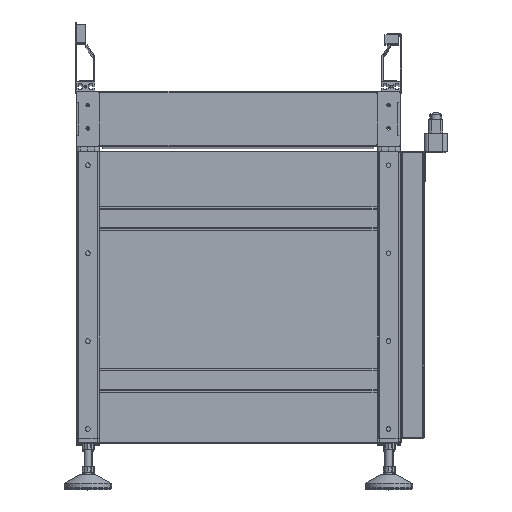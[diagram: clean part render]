
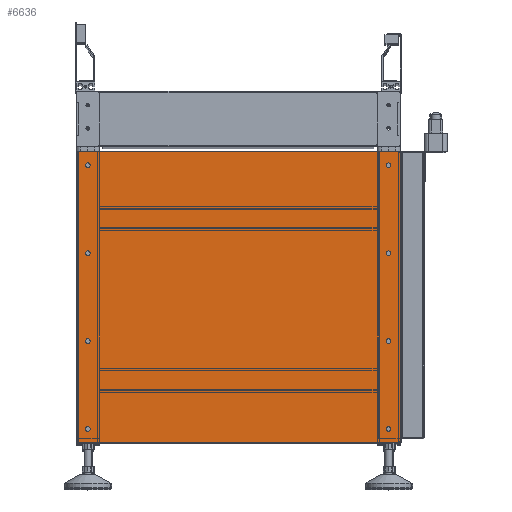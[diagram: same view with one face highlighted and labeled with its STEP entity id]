
A CAD part, top view. The second image highlights one B-rep face of the part: STEP entity #6636.
In plain terms, the highlighted planar face has unit normal (0, 0, 1).
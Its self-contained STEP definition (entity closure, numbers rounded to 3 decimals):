
#5215=FACE_BOUND('',#11143,.T.);
#5216=FACE_BOUND('',#11144,.T.);
#5217=FACE_BOUND('',#11145,.T.);
#5218=FACE_BOUND('',#11146,.T.);
#5219=FACE_BOUND('',#11147,.T.);
#5220=FACE_BOUND('',#11148,.T.);
#5221=FACE_BOUND('',#11149,.T.);
#5222=FACE_BOUND('',#11150,.T.);
#5223=FACE_BOUND('',#11151,.T.);
#5841=PLANE('',#38507);
#6636=ADVANCED_FACE('',(#5215,#5216,#5217,#5218,#5219,#5220,#5221,#5222,
#5223),#5841,.F.);
#11143=EDGE_LOOP('',(#18804,#18805));
#11144=EDGE_LOOP('',(#18806,#18807));
#11145=EDGE_LOOP('',(#18808,#18809));
#11146=EDGE_LOOP('',(#18810,#18811));
#11147=EDGE_LOOP('',(#18812,#18813));
#11148=EDGE_LOOP('',(#18814,#18815));
#11149=EDGE_LOOP('',(#18816,#18817));
#11150=EDGE_LOOP('',(#18818,#18819));
#11151=EDGE_LOOP('',(#18820,#18821,#18822,#18823,#18824,#18825,#18826,#18827));
#13615=LINE('',#50035,#15990);
#13619=LINE('',#50047,#15994);
#13623=LINE('',#50059,#15998);
#13627=LINE('',#50071,#16002);
#15990=VECTOR('',#41443,1.);
#15994=VECTOR('',#41455,1.);
#15998=VECTOR('',#41467,1.);
#16002=VECTOR('',#41479,1.);
#18804=ORIENTED_EDGE('',*,*,#32122,.F.);
#18805=ORIENTED_EDGE('',*,*,#32060,.F.);
#18806=ORIENTED_EDGE('',*,*,#32123,.F.);
#18807=ORIENTED_EDGE('',*,*,#32064,.F.);
#18808=ORIENTED_EDGE('',*,*,#32124,.F.);
#18809=ORIENTED_EDGE('',*,*,#32068,.F.);
#18810=ORIENTED_EDGE('',*,*,#32125,.F.);
#18811=ORIENTED_EDGE('',*,*,#32072,.F.);
#18812=ORIENTED_EDGE('',*,*,#32126,.F.);
#18813=ORIENTED_EDGE('',*,*,#32076,.F.);
#18814=ORIENTED_EDGE('',*,*,#32127,.F.);
#18815=ORIENTED_EDGE('',*,*,#32080,.F.);
#18816=ORIENTED_EDGE('',*,*,#32128,.F.);
#18817=ORIENTED_EDGE('',*,*,#32084,.F.);
#18818=ORIENTED_EDGE('',*,*,#32129,.F.);
#18819=ORIENTED_EDGE('',*,*,#32088,.F.);
#18820=ORIENTED_EDGE('',*,*,#32090,.T.);
#18821=ORIENTED_EDGE('',*,*,#32112,.T.);
#18822=ORIENTED_EDGE('',*,*,#32109,.T.);
#18823=ORIENTED_EDGE('',*,*,#32106,.T.);
#18824=ORIENTED_EDGE('',*,*,#32103,.T.);
#18825=ORIENTED_EDGE('',*,*,#32100,.T.);
#18826=ORIENTED_EDGE('',*,*,#32097,.T.);
#18827=ORIENTED_EDGE('',*,*,#32094,.T.);
#28808=VERTEX_POINT('',#49958);
#28809=VERTEX_POINT('',#49960);
#28812=VERTEX_POINT('',#49967);
#28813=VERTEX_POINT('',#49969);
#28816=VERTEX_POINT('',#49976);
#28817=VERTEX_POINT('',#49978);
#28820=VERTEX_POINT('',#49985);
#28821=VERTEX_POINT('',#49987);
#28824=VERTEX_POINT('',#49994);
#28825=VERTEX_POINT('',#49996);
#28828=VERTEX_POINT('',#50003);
#28829=VERTEX_POINT('',#50005);
#28832=VERTEX_POINT('',#50012);
#28833=VERTEX_POINT('',#50014);
#28836=VERTEX_POINT('',#50021);
#28837=VERTEX_POINT('',#50023);
#28838=VERTEX_POINT('',#50027);
#28839=VERTEX_POINT('',#50028);
#28842=VERTEX_POINT('',#50036);
#28844=VERTEX_POINT('',#50042);
#28846=VERTEX_POINT('',#50048);
#28848=VERTEX_POINT('',#50054);
#28850=VERTEX_POINT('',#50060);
#28852=VERTEX_POINT('',#50066);
#32060=EDGE_CURVE('',#28808,#28809,#37104,.T.);
#32064=EDGE_CURVE('',#28812,#28813,#37106,.T.);
#32068=EDGE_CURVE('',#28816,#28817,#37108,.T.);
#32072=EDGE_CURVE('',#28820,#28821,#37110,.T.);
#32076=EDGE_CURVE('',#28824,#28825,#37112,.T.);
#32080=EDGE_CURVE('',#28828,#28829,#37114,.T.);
#32084=EDGE_CURVE('',#28832,#28833,#37116,.T.);
#32088=EDGE_CURVE('',#28836,#28837,#37118,.T.);
#32090=EDGE_CURVE('',#28838,#28839,#37119,.T.);
#32094=EDGE_CURVE('',#28842,#28838,#13615,.T.);
#32097=EDGE_CURVE('',#28844,#28842,#37121,.T.);
#32100=EDGE_CURVE('',#28846,#28844,#13619,.T.);
#32103=EDGE_CURVE('',#28848,#28846,#37123,.T.);
#32106=EDGE_CURVE('',#28850,#28848,#13623,.T.);
#32109=EDGE_CURVE('',#28852,#28850,#37125,.T.);
#32112=EDGE_CURVE('',#28839,#28852,#13627,.T.);
#32122=EDGE_CURVE('',#28809,#28808,#37135,.T.);
#32123=EDGE_CURVE('',#28813,#28812,#37136,.T.);
#32124=EDGE_CURVE('',#28817,#28816,#37137,.T.);
#32125=EDGE_CURVE('',#28821,#28820,#37138,.T.);
#32126=EDGE_CURVE('',#28825,#28824,#37139,.T.);
#32127=EDGE_CURVE('',#28829,#28828,#37140,.T.);
#32128=EDGE_CURVE('',#28833,#28832,#37141,.T.);
#32129=EDGE_CURVE('',#28837,#28836,#37142,.T.);
#37104=CIRCLE('',#38451,5.);
#37106=CIRCLE('',#38454,5.);
#37108=CIRCLE('',#38457,5.);
#37110=CIRCLE('',#38460,5.);
#37112=CIRCLE('',#38463,5.);
#37114=CIRCLE('',#38466,5.);
#37116=CIRCLE('',#38469,5.);
#37118=CIRCLE('',#38472,5.);
#37119=CIRCLE('',#38474,4.);
#37121=CIRCLE('',#38478,4.);
#37123=CIRCLE('',#38482,4.);
#37125=CIRCLE('',#38486,4.);
#37135=CIRCLE('',#38499,5.);
#37136=CIRCLE('',#38500,5.);
#37137=CIRCLE('',#38501,5.);
#37138=CIRCLE('',#38502,5.);
#37139=CIRCLE('',#38503,5.);
#37140=CIRCLE('',#38504,5.);
#37141=CIRCLE('',#38505,5.);
#37142=CIRCLE('',#38506,5.);
#38451=AXIS2_PLACEMENT_3D('',#49959,#41374,#41375);
#38454=AXIS2_PLACEMENT_3D('',#49968,#41382,#41383);
#38457=AXIS2_PLACEMENT_3D('',#49977,#41390,#41391);
#38460=AXIS2_PLACEMENT_3D('',#49986,#41398,#41399);
#38463=AXIS2_PLACEMENT_3D('',#49995,#41406,#41407);
#38466=AXIS2_PLACEMENT_3D('',#50004,#41414,#41415);
#38469=AXIS2_PLACEMENT_3D('',#50013,#41422,#41423);
#38472=AXIS2_PLACEMENT_3D('',#50022,#41430,#41431);
#38474=AXIS2_PLACEMENT_3D('',#50026,#41435,#41436);
#38478=AXIS2_PLACEMENT_3D('',#50041,#41448,#41449);
#38482=AXIS2_PLACEMENT_3D('',#50053,#41460,#41461);
#38486=AXIS2_PLACEMENT_3D('',#50065,#41472,#41473);
#38499=AXIS2_PLACEMENT_3D('',#50083,#41501,#41502);
#38500=AXIS2_PLACEMENT_3D('',#50084,#41503,#41504);
#38501=AXIS2_PLACEMENT_3D('',#50085,#41505,#41506);
#38502=AXIS2_PLACEMENT_3D('',#50086,#41507,#41508);
#38503=AXIS2_PLACEMENT_3D('',#50087,#41509,#41510);
#38504=AXIS2_PLACEMENT_3D('',#50088,#41511,#41512);
#38505=AXIS2_PLACEMENT_3D('',#50089,#41513,#41514);
#38506=AXIS2_PLACEMENT_3D('',#50090,#41515,#41516);
#38507=AXIS2_PLACEMENT_3D('',#50091,#41517,#41518);
#41374=DIRECTION('',(0.,0.,1.));
#41375=DIRECTION('',(-1.,0.,0.));
#41382=DIRECTION('',(0.,0.,1.));
#41383=DIRECTION('',(-1.,0.,0.));
#41390=DIRECTION('',(0.,0.,1.));
#41391=DIRECTION('',(-1.,0.,0.));
#41398=DIRECTION('',(0.,0.,1.));
#41399=DIRECTION('',(-1.,0.,0.));
#41406=DIRECTION('',(0.,0.,1.));
#41407=DIRECTION('',(1.,0.,0.));
#41414=DIRECTION('',(0.,0.,1.));
#41415=DIRECTION('',(1.,0.,0.));
#41422=DIRECTION('',(0.,0.,1.));
#41423=DIRECTION('',(1.,0.,0.));
#41430=DIRECTION('',(0.,0.,1.));
#41431=DIRECTION('',(1.,0.,0.));
#41435=DIRECTION('',(0.,0.,1.));
#41436=DIRECTION('',(-1.,0.,0.));
#41443=DIRECTION('',(0.,1.,0.));
#41448=DIRECTION('',(0.,0.,1.));
#41449=DIRECTION('',(-1.,0.,0.));
#41455=DIRECTION('',(1.,0.,0.));
#41460=DIRECTION('',(0.,0.,1.));
#41461=DIRECTION('',(1.,0.,0.));
#41467=DIRECTION('',(0.,-1.,0.));
#41472=DIRECTION('',(0.,0.,1.));
#41473=DIRECTION('',(-1.,0.,0.));
#41479=DIRECTION('',(-1.,0.,0.));
#41501=DIRECTION('',(0.,0.,1.));
#41502=DIRECTION('',(-1.,0.,0.));
#41503=DIRECTION('',(0.,0.,1.));
#41504=DIRECTION('',(-1.,0.,0.));
#41505=DIRECTION('',(0.,0.,1.));
#41506=DIRECTION('',(-1.,0.,0.));
#41507=DIRECTION('',(0.,0.,1.));
#41508=DIRECTION('',(-1.,0.,0.));
#41509=DIRECTION('',(0.,0.,1.));
#41510=DIRECTION('',(1.,0.,0.));
#41511=DIRECTION('',(0.,0.,1.));
#41512=DIRECTION('',(1.,0.,0.));
#41513=DIRECTION('',(0.,0.,1.));
#41514=DIRECTION('',(1.,0.,0.));
#41515=DIRECTION('',(0.,0.,1.));
#41516=DIRECTION('',(1.,0.,0.));
#41517=DIRECTION('',(0.,0.,-1.));
#41518=DIRECTION('',(1.,0.,0.));
#49958=CARTESIAN_POINT('',(320.,285.,0.));
#49959=CARTESIAN_POINT('',(325.,285.,0.));
#49960=CARTESIAN_POINT('',(330.,285.,0.));
#49967=CARTESIAN_POINT('',(320.,95.,0.));
#49968=CARTESIAN_POINT('',(325.,95.,0.));
#49969=CARTESIAN_POINT('',(330.,95.,0.));
#49976=CARTESIAN_POINT('',(320.,-95.,0.));
#49977=CARTESIAN_POINT('',(325.,-95.,0.));
#49978=CARTESIAN_POINT('',(330.,-95.,0.));
#49985=CARTESIAN_POINT('',(320.,-285.,0.));
#49986=CARTESIAN_POINT('',(325.,-285.,0.));
#49987=CARTESIAN_POINT('',(330.,-285.,0.));
#49994=CARTESIAN_POINT('',(-330.,-285.,0.));
#49995=CARTESIAN_POINT('',(-325.,-285.,0.));
#49996=CARTESIAN_POINT('',(-320.,-285.,0.));
#50003=CARTESIAN_POINT('',(-330.,-95.,0.));
#50004=CARTESIAN_POINT('',(-325.,-95.,0.));
#50005=CARTESIAN_POINT('',(-320.,-95.,0.));
#50012=CARTESIAN_POINT('',(-330.,95.,0.));
#50013=CARTESIAN_POINT('',(-325.,95.,0.));
#50014=CARTESIAN_POINT('',(-320.,95.,0.));
#50021=CARTESIAN_POINT('',(-330.,285.,0.));
#50022=CARTESIAN_POINT('',(-325.,285.,0.));
#50023=CARTESIAN_POINT('',(-320.,285.,0.));
#50026=CARTESIAN_POINT('',(346.,311.,0.));
#50027=CARTESIAN_POINT('',(350.,311.,0.));
#50028=CARTESIAN_POINT('',(346.,315.,0.));
#50035=CARTESIAN_POINT('',(350.,311.,0.));
#50036=CARTESIAN_POINT('',(350.,-311.,0.));
#50041=CARTESIAN_POINT('',(346.,-311.,0.));
#50042=CARTESIAN_POINT('',(346.,-315.,0.));
#50047=CARTESIAN_POINT('',(-346.,-315.,0.));
#50048=CARTESIAN_POINT('',(-346.,-315.,0.));
#50053=CARTESIAN_POINT('',(-346.,-311.,0.));
#50054=CARTESIAN_POINT('',(-350.,-311.,0.));
#50059=CARTESIAN_POINT('',(-350.,311.,0.));
#50060=CARTESIAN_POINT('',(-350.,311.,0.));
#50065=CARTESIAN_POINT('',(-346.,311.,0.));
#50066=CARTESIAN_POINT('',(-346.,315.,0.));
#50071=CARTESIAN_POINT('',(-346.,315.,0.));
#50083=CARTESIAN_POINT('',(325.,285.,0.));
#50084=CARTESIAN_POINT('',(325.,95.,0.));
#50085=CARTESIAN_POINT('',(325.,-95.,0.));
#50086=CARTESIAN_POINT('',(325.,-285.,0.));
#50087=CARTESIAN_POINT('',(-325.,-285.,0.));
#50088=CARTESIAN_POINT('',(-325.,-95.,0.));
#50089=CARTESIAN_POINT('',(-325.,95.,0.));
#50090=CARTESIAN_POINT('',(-325.,285.,0.));
#50091=CARTESIAN_POINT('',(346.,311.,0.));
